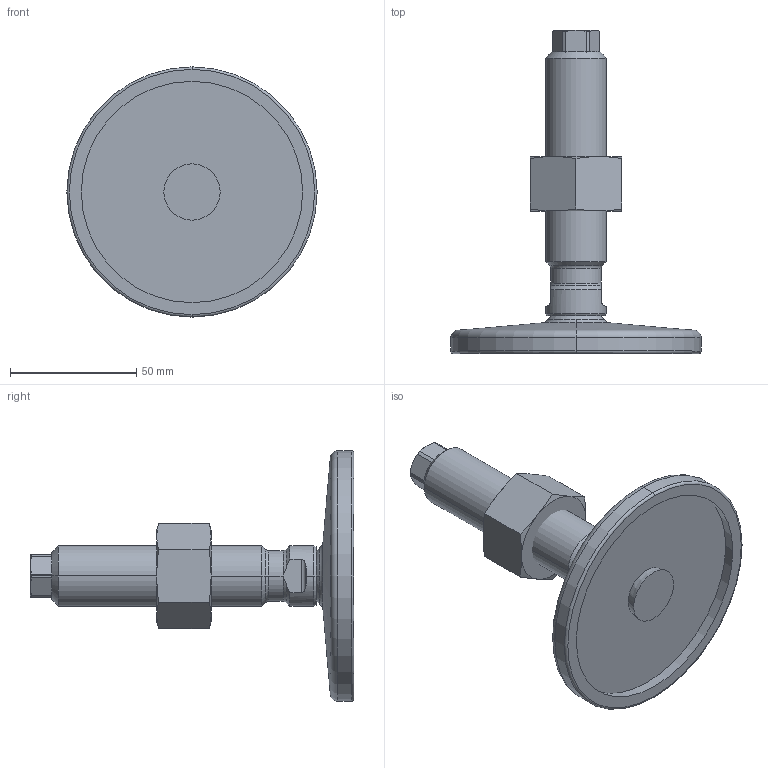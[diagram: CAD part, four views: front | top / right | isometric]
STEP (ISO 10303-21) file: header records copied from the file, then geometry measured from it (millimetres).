
FILE_DESCRIPTION (( 'STEP AP214' ), '1' );
FILE_NAME ('21-100-M24-100-D0-VK.step', '2020-10-02T17:37:02', ( '' ), ( '' ), 'SwSTEP 2.0', 'SolidWorks 2019', '' );
FILE_SCHEMA (( 'AUTOMOTIVE_DESIGN' ));
Length unit declared in the file: millimetre
Products named in the file (4): WB21_Fußteller 21^WB21_V_D0-100-R14-B9 (M24); WB21_Spindel_V^WB21_V_M24-100; 21-100-M24-100-D0-VK; WB4032^WB21_V_M24
Assembly tree (3 placements, depth 2):
  21-100-M24-100-D0-VK
    WB21_Fußteller 21^WB21_V_D0-100-R14-B9 (M24)
    WB21_Spindel_V^WB21_V_M24-100
    WB4032^WB21_V_M24
Bounding box: 99 x 127.9 x 99 mm (x, y, z)
Volume: 118953.4 mm3; surface area: 34514.9 mm2
Topology: 3 solids, 3 shells, 101 faces, 225 edges, 133 vertices
Faces by surface type: cone 33, plane 29, cylinder 25, torus 10, sphere 4
Entity records: 3176 total; most frequent: CARTESIAN_POINT 749, DIRECTION 492, ORIENTED_EDGE 450, EDGE_CURVE 225, AXIS2_PLACEMENT_3D 212, VERTEX_POINT 133, EDGE_LOOP 106, CIRCLE 105
